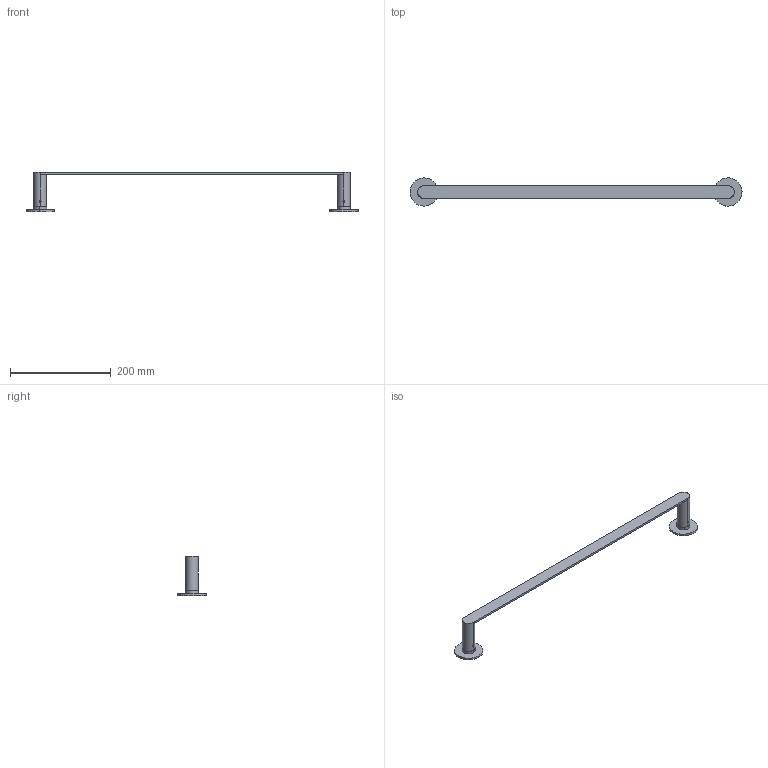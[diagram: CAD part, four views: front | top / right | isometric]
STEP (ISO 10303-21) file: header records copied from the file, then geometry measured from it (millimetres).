
FILE_DESCRIPTION (( 'STEP AP203' ), '1' );
FILE_NAME ('99ZP06197.STEP', '2022-01-04T11:16:41', ( '' ), ( '' ), 'SwSTEP 2.0', 'SolidWorks 2021', '' );
FILE_SCHEMA (( 'CONFIG_CONTROL_DESIGN' ));
Length unit declared in the file: millimetre
Products named in the file (1): 99ZP06197
Bounding box: 657.96 x 55.97 x 77.5 mm (x, y, z)
Volume: 137704.7 mm3; surface area: 61761.8 mm2
Topology: 3 solids, 3 shells, 114 faces, 298 edges, 196 vertices
Faces by surface type: cylinder 72, plane 28, bspline 10, torus 4
Entity records: 7131 total; most frequent: CARTESIAN_POINT 4493, ORIENTED_EDGE 596, DIRECTION 476, EDGE_CURVE 298, VERTEX_POINT 196, AXIS2_PLACEMENT_3D 185, EDGE_LOOP 128, FACE_OUTER_BOUND 114
